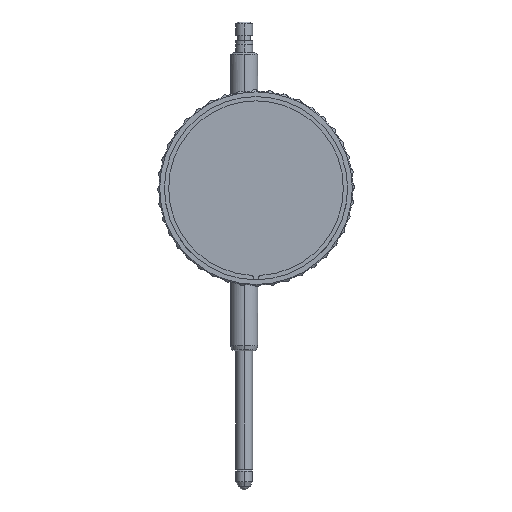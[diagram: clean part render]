
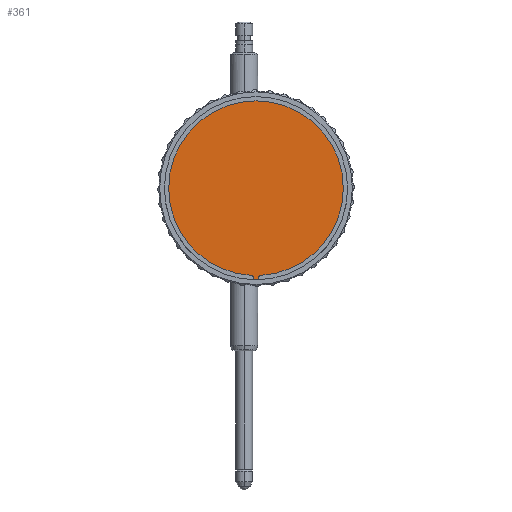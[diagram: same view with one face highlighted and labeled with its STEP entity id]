
A CAD part, front view. The second image highlights one B-rep face of the part: STEP entity #361.
In plain terms, the highlighted planar face has unit normal (0, -1, 0).
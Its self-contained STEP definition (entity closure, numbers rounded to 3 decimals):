
#361=ADVANCED_FACE('',(#1045),#1046,.F.);
#1045=FACE_OUTER_BOUND('',#1803,.T.);
#1046=PLANE('',#1804);
#1803=EDGE_LOOP('',(#4681,#4682,#4683,#4684,#4685,#4686,#4687,#4688));
#1804=AXIS2_PLACEMENT_3D('',#4689,#4690,#4691);
#4681=ORIENTED_EDGE('',*,*,#5198,.T.);
#4682=ORIENTED_EDGE('',*,*,#6047,.T.);
#4683=ORIENTED_EDGE('',*,*,#6048,.T.);
#4684=ORIENTED_EDGE('',*,*,#6049,.T.);
#4685=ORIENTED_EDGE('',*,*,#5204,.T.);
#4686=ORIENTED_EDGE('',*,*,#5209,.T.);
#4687=ORIENTED_EDGE('',*,*,#6050,.T.);
#4688=ORIENTED_EDGE('',*,*,#5207,.T.);
#4689=CARTESIAN_POINT('',(0.,-13.8,0.));
#4690=DIRECTION('',(0.0,1.0,0.0));
#4691=DIRECTION('',(-1.0,0.0,0.0));
#5198=EDGE_CURVE('',#6422,#6419,#6423,.T.);
#5204=EDGE_CURVE('',#6428,#6432,#6434,.T.);
#5207=EDGE_CURVE('',#6436,#6422,#6439,.T.);
#5209=EDGE_CURVE('',#6432,#6440,#6443,.T.);
#6047=EDGE_CURVE('',#6419,#7831,#7832,.T.);
#6048=EDGE_CURVE('',#7831,#7833,#7834,.T.);
#6049=EDGE_CURVE('',#7833,#6428,#7835,.T.);
#6050=EDGE_CURVE('',#6440,#6436,#7836,.T.);
#6419=VERTEX_POINT('',#8427);
#6422=VERTEX_POINT('',#8431);
#6423=CIRCLE('',#8432,0.875);
#6428=VERTEX_POINT('',#8438);
#6432=VERTEX_POINT('',#8443);
#6434=CIRCLE('',#8446,0.875);
#6436=VERTEX_POINT('',#8448);
#6439=CIRCLE('',#8452,25.75);
#6440=VERTEX_POINT('',#8453);
#6443=CIRCLE('',#8457,25.75);
#7831=VERTEX_POINT('',#13335);
#7832=CIRCLE('',#13336,0.875);
#7833=VERTEX_POINT('',#13337);
#7834=CIRCLE('',#13338,27.0);
#7835=CIRCLE('',#13339,0.875);
#7836=CIRCLE('',#13340,25.75);
#8427=CARTESIAN_POINT('',(-0.6,-13.8,-26.584));
#8431=CARTESIAN_POINT('',(-1.427,-13.8,-25.71));
#8432=AXIS2_PLACEMENT_3D('',#13716,#13717,#13718);
#8438=CARTESIAN_POINT('',(0.6,-13.8,-26.584));
#8443=CARTESIAN_POINT('',(1.427,-13.8,-25.71));
#8446=AXIS2_PLACEMENT_3D('',#13728,#13729,#13730);
#8448=CARTESIAN_POINT('',(-25.75,-13.8,0.));
#8452=AXIS2_PLACEMENT_3D('',#13735,#13736,#13737);
#8453=CARTESIAN_POINT('',(25.75,-13.8,0.));
#8457=AXIS2_PLACEMENT_3D('',#13739,#13740,#13741);
#13335=CARTESIAN_POINT('',(-0.7,-13.8,-26.991));
#13336=AXIS2_PLACEMENT_3D('',#14613,#14614,#14615);
#13337=CARTESIAN_POINT('',(0.7,-13.8,-26.991));
#13338=AXIS2_PLACEMENT_3D('',#14616,#14617,#14618);
#13339=AXIS2_PLACEMENT_3D('',#14619,#14620,#14621);
#13340=AXIS2_PLACEMENT_3D('',#14622,#14623,#14624);
#13716=CARTESIAN_POINT('',(-1.475,-13.8,-26.584));
#13717=DIRECTION('',(-0.0,1.0,0.0));
#13718=DIRECTION('',(1.0,0.0,0.0));
#13728=CARTESIAN_POINT('',(1.475,-13.8,-26.584));
#13729=DIRECTION('',(-0.0,1.0,0.0));
#13730=DIRECTION('',(1.0,0.0,0.0));
#13735=CARTESIAN_POINT('',(0.,-13.8,0.));
#13736=DIRECTION('',(0.0,-1.0,0.0));
#13737=DIRECTION('',(1.0,0.0,0.0));
#13739=CARTESIAN_POINT('',(0.,-13.8,0.));
#13740=DIRECTION('',(0.0,-1.0,0.0));
#13741=DIRECTION('',(1.0,0.0,0.0));
#14613=CARTESIAN_POINT('',(-1.475,-13.8,-26.584));
#14614=DIRECTION('',(-0.0,1.0,0.0));
#14615=DIRECTION('',(1.0,0.0,0.0));
#14616=CARTESIAN_POINT('',(0.,-13.8,0.));
#14617=DIRECTION('',(0.0,-1.0,0.0));
#14618=DIRECTION('',(-1.0,0.0,0.0));
#14619=CARTESIAN_POINT('',(1.475,-13.8,-26.584));
#14620=DIRECTION('',(-0.0,1.0,0.0));
#14621=DIRECTION('',(1.0,0.0,0.0));
#14622=CARTESIAN_POINT('',(0.,-13.8,0.));
#14623=DIRECTION('',(0.0,-1.0,0.0));
#14624=DIRECTION('',(1.0,0.0,0.0));
